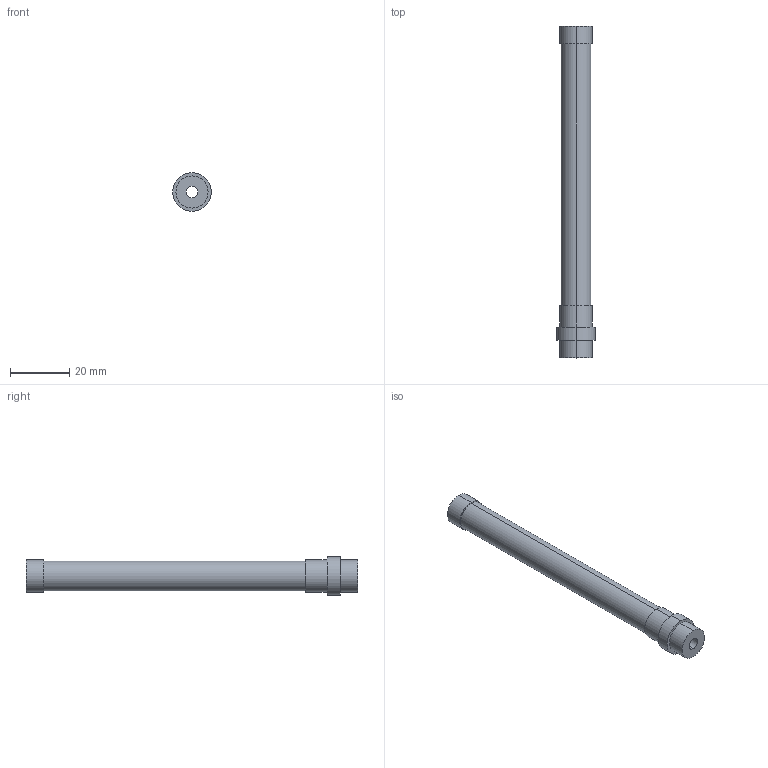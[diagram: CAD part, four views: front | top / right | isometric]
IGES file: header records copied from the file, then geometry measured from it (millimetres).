
Start section: SolidWorks IGES FILE using analytic representation for surfaces
Global section: file name: \\intra-srv04\開発データ\CAD_Data\CAD委員会\3D電子ｶﾀﾛｸﾞ\製品カタログ（新）\0_IGES\ER-VAK10.IGS,41HSolidWorks 2004; native system: by SolidWorks Corporation; preprocessor: Version 5.3; author: mf1158; date: 050906.113651; units: millimetre
Bounding box: 13 x 112 x 13 mm (x, y, z)
Volume: 7904.7 mm3; surface area: 5287 mm2
Topology: 1 solids, 1 shells, 18 faces, 36 edges, 24 vertices
Faces by surface type: revolution 12, plane 6
